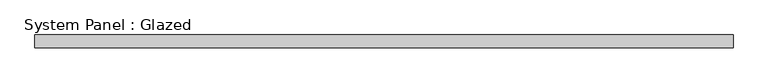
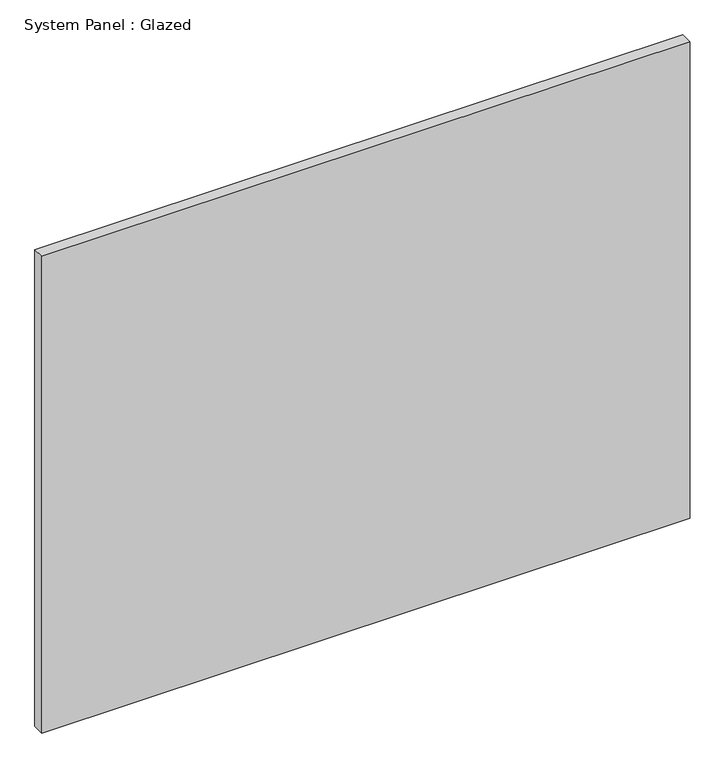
"""IFC4 building model written with IfcOpenShell, lengths in millimetres: plate geometry, System Panel : Glazed."""

from ifc_helpers import new_model, si_unit, origin, origin_with_axes, place, context, project, spatial, polyline, outline, extrude, source, transform, mapped, element, save


def system_panel_glazed_4e1d9d04(model_context):
    return source(origin(), model_context, "Body", "SweptSolid", [
        extrude(outline(polyline([(691.5833335, -49.5), (-691.5833335, -49.5), (-691.5833335, -24.5), (691.5833335, -24.5), (691.5833335, -49.5)])), origin_with_axes(), (0.0, 0.0, 1.0), 1075.0),
    ])


if __name__ == "__main__":
    model = new_model("IFC4")
    model_context = context("Model", 3, world=origin())
    ifc_project = project(units=[si_unit("LENGTHUNIT", "METRE", prefix="MILLI")], contexts=[model_context])
    site = spatial("IfcSite", under=ifc_project)
    building = spatial("IfcBuilding", under=site)
    placement = place(None, origin())
    system_panel_glazed_shape = system_panel_glazed_4e1d9d04(model_context)
    element("IfcPlate", 1, ObjectType="System Panel : Glazed", at=placement, inside=building, context=model_context, shape_type="MappedRepresentation", body=[
        mapped(system_panel_glazed_shape, transform((0.0, 0.0, 0.0), x_axis=(1.0, 0.0, 0.0), y_axis=(0.0, 1.0, 0.0), z_axis=(0.0, 0.0, 1.0))),
    ])
    save(model, "model.ifc")
